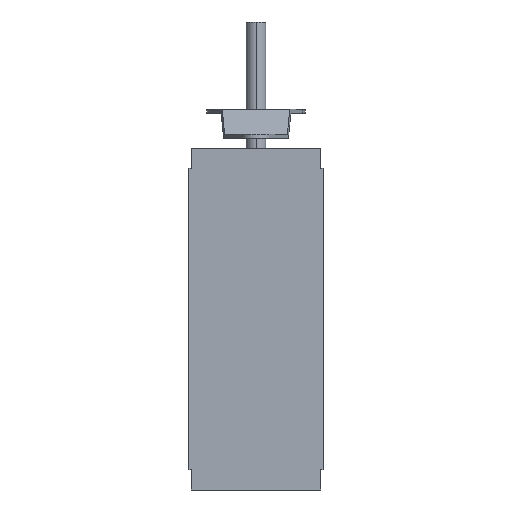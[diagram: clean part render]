
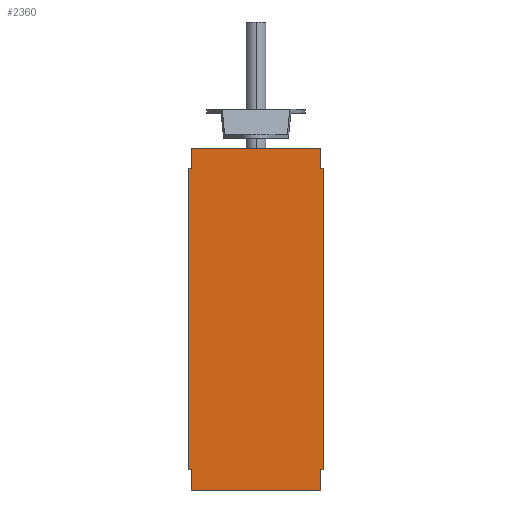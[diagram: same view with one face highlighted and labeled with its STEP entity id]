
A CAD part, left-side view. The second image highlights one B-rep face of the part: STEP entity #2360.
In plain terms, the highlighted planar face has unit normal (-1, 0, 0).
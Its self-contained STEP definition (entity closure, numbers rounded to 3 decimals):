
#4 = CARTESIAN_POINT ( 'NONE',  ( -103., 68., 152.4 ) ) ;
#10 = ORIENTED_EDGE ( 'NONE', *, *, #959, .T. ) ;
#12 = LINE ( 'NONE', #2023, #1707 ) ;
#63 = VECTOR ( 'NONE', #1215, 1000. ) ;
#66 = DIRECTION ( 'NONE',  ( 0., 1., 0. ) ) ;
#101 = LINE ( 'NONE', #1174, #2112 ) ;
#123 = VERTEX_POINT ( 'NONE', #417 ) ;
#127 = DIRECTION ( 'NONE',  ( 0., 1., 0. ) ) ;
#130 = VECTOR ( 'NONE', #920, 1000. ) ;
#178 = VERTEX_POINT ( 'NONE', #397 ) ;
#192 = LINE ( 'NONE', #1318, #1631 ) ;
#219 = EDGE_CURVE ( 'NONE', #1901, #2151, #1946, .T. ) ;
#227 = CARTESIAN_POINT ( 'NONE',  ( -103., -65.5, 173. ) ) ;
#244 = VERTEX_POINT ( 'NONE', #250 ) ;
#245 = EDGE_CURVE ( 'NONE', #1669, #178, #101, .T. ) ;
#250 = CARTESIAN_POINT ( 'NONE',  ( -103., 65.5, 152.4 ) ) ;
#251 = DIRECTION ( 'NONE',  ( 0., 0., -1. ) ) ;
#279 = DIRECTION ( 'NONE',  ( 0., 0., -1. ) ) ;
#287 = VECTOR ( 'NONE', #1589, 1000. ) ;
#304 = VERTEX_POINT ( 'NONE', #1902 ) ;
#333 = ORIENTED_EDGE ( 'NONE', *, *, #945, .T. ) ;
#377 = LINE ( 'NONE', #1131, #1820 ) ;
#397 = CARTESIAN_POINT ( 'NONE',  ( -103., -65.5, 152.4 ) ) ;
#417 = CARTESIAN_POINT ( 'NONE',  ( -103., 65.5, 173. ) ) ;
#431 = EDGE_CURVE ( 'NONE', #244, #664, #1396, .T. ) ;
#437 = CARTESIAN_POINT ( 'NONE',  ( -103., 65.5, -173. ) ) ;
#469 = ORIENTED_EDGE ( 'NONE', *, *, #431, .T. ) ;
#484 = CARTESIAN_POINT ( 'NONE',  ( -103., 65.5, 173. ) ) ;
#495 = CARTESIAN_POINT ( 'NONE',  ( -103., -68., -152.4 ) ) ;
#541 = EDGE_CURVE ( 'NONE', #664, #1400, #12, .T. ) ;
#545 = VERTEX_POINT ( 'NONE', #695 ) ;
#583 = EDGE_CURVE ( 'NONE', #123, #244, #377, .T. ) ;
#602 = PLANE ( 'NONE',  #1808 ) ;
#638 = VECTOR ( 'NONE', #1422, 1000. ) ;
#664 = VERTEX_POINT ( 'NONE', #4 ) ;
#672 = ORIENTED_EDGE ( 'NONE', *, *, #1482, .F. ) ;
#695 = CARTESIAN_POINT ( 'NONE',  ( -103., 65.5, -173. ) ) ;
#697 = CARTESIAN_POINT ( 'NONE',  ( -103., -68., -152.4 ) ) ;
#715 = VECTOR ( 'NONE', #1980, 1000. ) ;
#754 = DIRECTION ( 'NONE',  ( 0., 0., -1. ) ) ;
#794 = EDGE_CURVE ( 'NONE', #545, #304, #1037, .T. ) ;
#920 = DIRECTION ( 'NONE',  ( 0., -1., 0. ) ) ;
#945 = EDGE_CURVE ( 'NONE', #1712, #545, #1125, .T. ) ;
#959 = EDGE_CURVE ( 'NONE', #1400, #1712, #2099, .T. ) ;
#962 = ORIENTED_EDGE ( 'NONE', *, *, #541, .T. ) ;
#1037 = LINE ( 'NONE', #437, #63 ) ;
#1063 = ORIENTED_EDGE ( 'NONE', *, *, #219, .F. ) ;
#1081 = ORIENTED_EDGE ( 'NONE', *, *, #1666, .F. ) ;
#1125 = LINE ( 'NONE', #484, #287 ) ;
#1126 = EDGE_CURVE ( 'NONE', #123, #1669, #2246, .T. ) ;
#1130 = EDGE_LOOP ( 'NONE', ( #1218, #1081, #1063, #1597, #672, #1844, #1137, #2056, #469, #962, #10, #333 ) ) ;
#1131 = CARTESIAN_POINT ( 'NONE',  ( -103., 65.5, 173. ) ) ;
#1137 = ORIENTED_EDGE ( 'NONE', *, *, #1126, .F. ) ;
#1153 = CARTESIAN_POINT ( 'NONE',  ( -103., -68., 152.4 ) ) ;
#1174 = CARTESIAN_POINT ( 'NONE',  ( -103., -65.5, 173. ) ) ;
#1215 = DIRECTION ( 'NONE',  ( 0., -1., 0. ) ) ;
#1218 = ORIENTED_EDGE ( 'NONE', *, *, #794, .T. ) ;
#1225 = CARTESIAN_POINT ( 'NONE',  ( -103., 65.5, -152.4 ) ) ;
#1237 = CARTESIAN_POINT ( 'NONE',  ( -103., 68., -152.4 ) ) ;
#1294 = LINE ( 'NONE', #227, #1522 ) ;
#1318 = CARTESIAN_POINT ( 'NONE',  ( -103., -65.5, 152.4 ) ) ;
#1396 = LINE ( 'NONE', #1957, #2206 ) ;
#1400 = VERTEX_POINT ( 'NONE', #1237 ) ;
#1422 = DIRECTION ( 'NONE',  ( 0., -1., 0. ) ) ;
#1455 = CARTESIAN_POINT ( 'NONE',  ( -103., 65.5, 173. ) ) ;
#1482 = EDGE_CURVE ( 'NONE', #178, #1984, #192, .T. ) ;
#1522 = VECTOR ( 'NONE', #251, 1000. ) ;
#1524 = FACE_OUTER_BOUND ( 'NONE', #1130, .T. ) ;
#1526 = DIRECTION ( 'NONE',  ( 0., 0., -1. ) ) ;
#1530 = CARTESIAN_POINT ( 'NONE',  ( -103., -65.5, -152.4 ) ) ;
#1542 = CARTESIAN_POINT ( 'NONE',  ( -103., -65.5, -152.4 ) ) ;
#1581 = LINE ( 'NONE', #697, #715 ) ;
#1589 = DIRECTION ( 'NONE',  ( 0., 0., -1. ) ) ;
#1597 = ORIENTED_EDGE ( 'NONE', *, *, #2315, .F. ) ;
#1631 = VECTOR ( 'NONE', #1877, 1000. ) ;
#1661 = DIRECTION ( 'NONE',  ( 0., 0., -1. ) ) ;
#1666 = EDGE_CURVE ( 'NONE', #2151, #304, #1294, .T. ) ;
#1669 = VERTEX_POINT ( 'NONE', #1880 ) ;
#1707 = VECTOR ( 'NONE', #1661, 1000. ) ;
#1712 = VERTEX_POINT ( 'NONE', #2259 ) ;
#1808 = AXIS2_PLACEMENT_3D ( 'NONE', #2070, #2247, #1526 ) ;
#1820 = VECTOR ( 'NONE', #754, 1000. ) ;
#1844 = ORIENTED_EDGE ( 'NONE', *, *, #245, .F. ) ;
#1877 = DIRECTION ( 'NONE',  ( 0., -1., 0. ) ) ;
#1880 = CARTESIAN_POINT ( 'NONE',  ( -103., -65.5, 173. ) ) ;
#1901 = VERTEX_POINT ( 'NONE', #495 ) ;
#1902 = CARTESIAN_POINT ( 'NONE',  ( -103., -65.5, -173. ) ) ;
#1946 = LINE ( 'NONE', #1542, #1975 ) ;
#1957 = CARTESIAN_POINT ( 'NONE',  ( -103., 65.5, 152.4 ) ) ;
#1975 = VECTOR ( 'NONE', #66, 1000. ) ;
#1980 = DIRECTION ( 'NONE',  ( 0., 0., -1. ) ) ;
#1984 = VERTEX_POINT ( 'NONE', #1153 ) ;
#2023 = CARTESIAN_POINT ( 'NONE',  ( -103., 68., -152.4 ) ) ;
#2056 = ORIENTED_EDGE ( 'NONE', *, *, #583, .T. ) ;
#2070 = CARTESIAN_POINT ( 'NONE',  ( -103., 65.5, 173. ) ) ;
#2099 = LINE ( 'NONE', #1225, #638 ) ;
#2112 = VECTOR ( 'NONE', #279, 1000. ) ;
#2151 = VERTEX_POINT ( 'NONE', #1530 ) ;
#2206 = VECTOR ( 'NONE', #127, 1000. ) ;
#2246 = LINE ( 'NONE', #1455, #130 ) ;
#2247 = DIRECTION ( 'NONE',  ( 1., 0., 0. ) ) ;
#2259 = CARTESIAN_POINT ( 'NONE',  ( -103., 65.5, -152.4 ) ) ;
#2315 = EDGE_CURVE ( 'NONE', #1984, #1901, #1581, .T. ) ;
#2360 = ADVANCED_FACE ( 'NONE', ( #1524 ), #602, .F. ) ;
